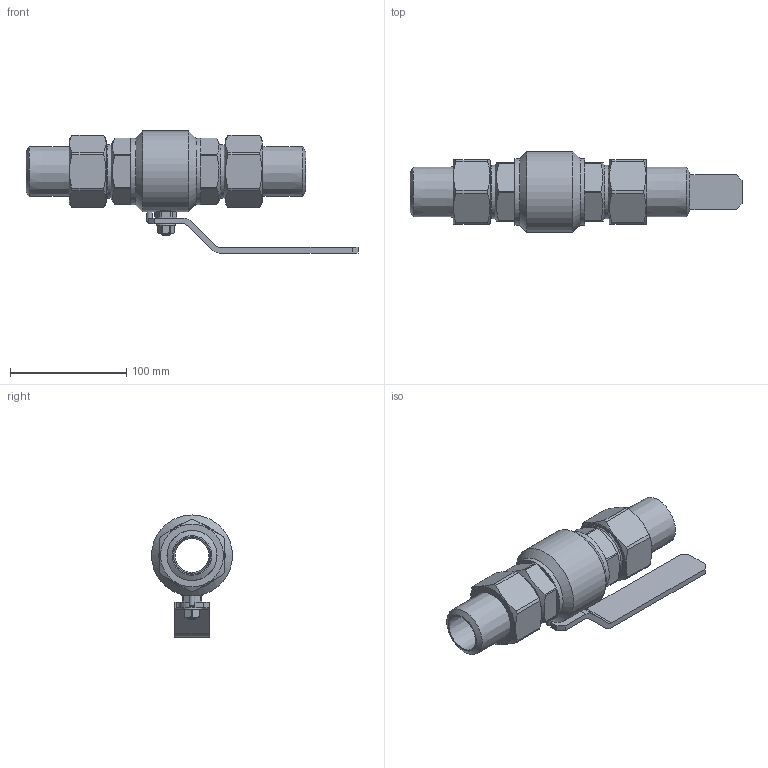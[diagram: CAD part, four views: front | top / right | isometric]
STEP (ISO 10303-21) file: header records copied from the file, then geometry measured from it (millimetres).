
FILE_DESCRIPTION(('STEP AP203'), '1');
FILE_NAME('ZARD 032.100.30.P.stp', '2013-12-06T06:28:25', ('User'), ('Computer'), 'ASCON STEP Converter 1.3', 'Kompas 3D', '');
FILE_SCHEMA(('CONFIG_CONTROL_DESIGN','SUPPORT_RESOURCE_SCHEMA'));
Length unit declared in the file: millimetre
Products named in the file (1): 75
Bounding box: 285 x 69.5 x 104.75 mm (x, y, z)
Volume: 390905.1 mm3; surface area: 99294.4 mm2
Topology: 1 solids, 4 shells, 218 faces, 525 edges, 332 vertices
Faces by surface type: plane 117, cylinder 58, cone 39, bspline 3, torus 1
Full cylindrical faces by diameter (mm): 5 x2, 8 x1, 10.7 x1, 10.917 x1, 12 x1, 12.1 x1, 19.8 x1, 20 x2, 29 x2, 43 x2, 45.8 x2, 46.376 x1, 48 x2, 48.4 x1, 57 x2, 69.5 x1
Entity records: 8811 total; most frequent: CARTESIAN_POINT 3558, DIRECTION 1124, ORIENTED_EDGE 1048, EDGE_CURVE 525, AXIS2_PLACEMENT_3D 439, VERTEX_POINT 332, LINE 246, VECTOR 246
